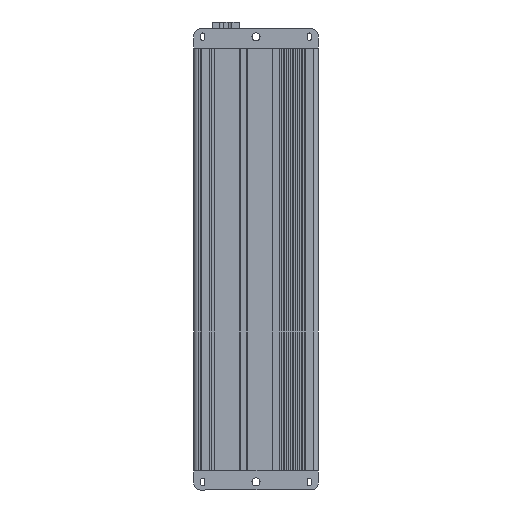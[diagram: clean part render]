
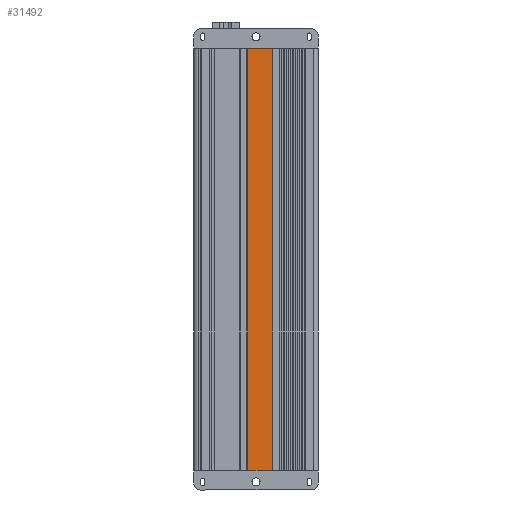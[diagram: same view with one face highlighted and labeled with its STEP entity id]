
A CAD part, left-side view. The second image highlights one B-rep face of the part: STEP entity #31492.
In plain terms, the highlighted planar face has unit normal (-1, 0, 0).
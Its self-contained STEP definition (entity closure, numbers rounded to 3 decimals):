
#912=PLANE('',#34569);
#1710=LINE('',#51945,#4119);
#3129=LINE('',#65730,#5538);
#3348=LINE('',#66262,#5757);
#3349=LINE('',#66264,#5758);
#4119=VECTOR('',#36736,0.394);
#5538=VECTOR('',#41899,0.394);
#5757=VECTOR('',#42494,0.394);
#5758=VECTOR('',#42497,0.394);
#8089=FACE_OUTER_BOUND('',#9917,.T.);
#9917=EDGE_LOOP('',(#27765,#27766,#27767,#27768));
#13010=VERTEX_POINT('',#51942);
#13011=VERTEX_POINT('',#51944);
#15004=VERTEX_POINT('',#65727);
#15005=VERTEX_POINT('',#65729);
#16337=EDGE_CURVE('',#13010,#13011,#1710,.T.);
#19189=EDGE_CURVE('',#15004,#15005,#3129,.T.);
#19472=EDGE_CURVE('',#13010,#15005,#3348,.T.);
#19473=EDGE_CURVE('',#13011,#15004,#3349,.T.);
#27765=ORIENTED_EDGE('',*,*,#16337,.F.);
#27766=ORIENTED_EDGE('',*,*,#19472,.T.);
#27767=ORIENTED_EDGE('',*,*,#19189,.F.);
#27768=ORIENTED_EDGE('',*,*,#19473,.F.);
#31492=ADVANCED_FACE('',(#8089),#912,.T.);
#34569=AXIS2_PLACEMENT_3D('',#66263,#42495,#42496);
#36736=DIRECTION('',(0.,1.,0.));
#41899=DIRECTION('',(0.,-1.,0.));
#42494=DIRECTION('',(0.,0.,1.));
#42495=DIRECTION('center_axis',(-1.,0.,0.));
#42496=DIRECTION('ref_axis',(0.,-1.,0.));
#42497=DIRECTION('',(0.,0.,1.));
#51942=CARTESIAN_POINT('',(-2.054,-0.531,-6.496));
#51944=CARTESIAN_POINT('',(-2.054,0.591,-6.496));
#51945=CARTESIAN_POINT('',(-2.054,-0.531,-6.496));
#65727=CARTESIAN_POINT('',(-2.054,0.591,12.008));
#65729=CARTESIAN_POINT('',(-2.054,-0.531,12.008));
#65730=CARTESIAN_POINT('',(-2.054,-0.531,12.008));
#66262=CARTESIAN_POINT('',(-2.054,-0.531,-6.496));
#66263=CARTESIAN_POINT('Origin',(-2.054,0.591,-6.496));
#66264=CARTESIAN_POINT('',(-2.054,0.591,-6.496));
